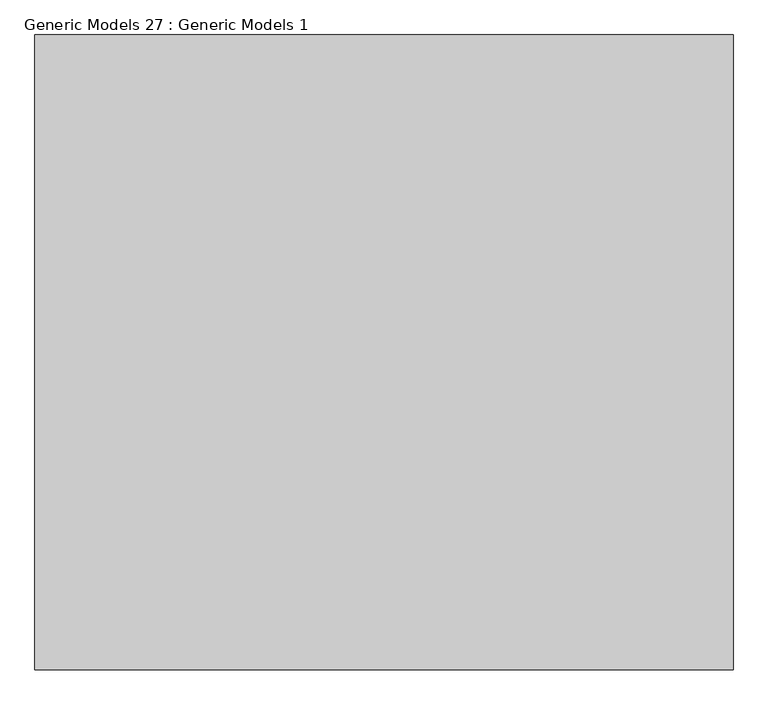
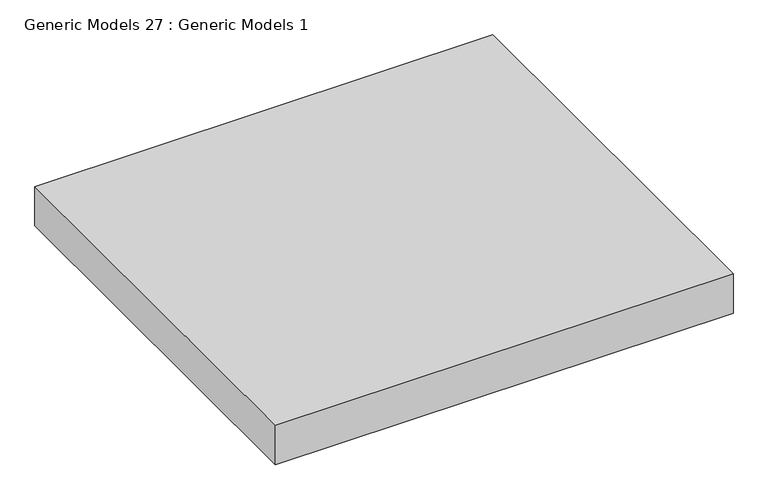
"""IFC4 building model written with IfcOpenShell, lengths in millimetres: proxy geometry, Generic Models 27 : Generic Models 1."""

from ifc_helpers import new_model, si_unit, origin, origin_with_axes, place, context, project, spatial, polyline, outline, extrude, source, transform, mapped, element, save


def generic_models_27_generic_models_1_3b8869cb(model_context):
    return source(origin(), model_context, "Body", "SweptSolid", [
        extrude(outline(polyline([(9548.8728451, -9086.5772826), (9548.8728451, -8086.5772826), (10648.8728451, -8086.5772826), (10648.8728451, -9086.5772826), (9548.8728451, -9086.5772826)])), origin_with_axes(), (0.0, 0.0, 1.0), 100.0),
    ])


if __name__ == "__main__":
    model = new_model("IFC4")
    model_context = context("Model", 3, world=origin())
    ifc_project = project(units=[si_unit("LENGTHUNIT", "METRE", prefix="MILLI")], contexts=[model_context])
    site = spatial("IfcSite", under=ifc_project)
    building = spatial("IfcBuilding", under=site)
    placement = place(None, origin())
    generic_models_27_generic_models_1_shape = generic_models_27_generic_models_1_3b8869cb(model_context)
    element("IfcBuildingElementProxy", 1, Name="Generic Models 27 : Generic Models 1", ObjectType="Generic Models 27 : Generic Models 1", at=placement, inside=building, context=model_context, shape_type="MappedRepresentation", body=[
        mapped(generic_models_27_generic_models_1_shape, transform((0.0, 0.0, 0.0), x_axis=(1.0, 0.0, 0.0), y_axis=(0.0, 1.0, 0.0), z_axis=(0.0, 0.0, 1.0))),
    ])
    save(model, "model.ifc")
